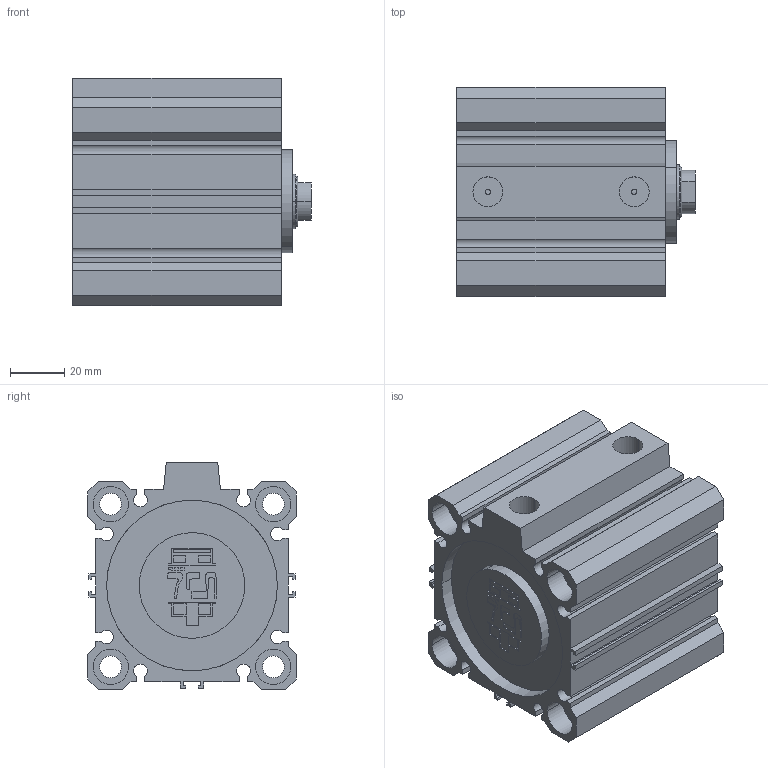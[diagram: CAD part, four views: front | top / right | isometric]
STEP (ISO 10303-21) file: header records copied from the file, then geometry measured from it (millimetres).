
FILE_DESCRIPTION(('CATIA V5 STEP Exchange'),'2;1');
FILE_NAME('D:\PDA\PDA-STP\PDA 63-20\PDA 63-20-35.stp','2016-02-03T05:39:42+00:00',('none'),('none'),'Version 5-6 Release 2012','CATIA V5 STEP AP203','none');
FILE_SCHEMA(('CONFIG_CONTROL_DESIGN'));
Length unit declared in the file: millimetre
Products named in the file (1): PDA 63-20-35-00
Assembly tree (2 placements, depth 2):
  PDA 63-20-35-00
    #58
    #7662
Bounding box: 88 x 77 x 84 mm (x, y, z)
Volume: 253212.6 mm3; surface area: 90640.1 mm2
Topology: 2 solids, 2 shells, 284 faces, 748 edges, 500 vertices
Faces by surface type: plane 200, cylinder 80, cone 2, torus 2
Entity records: 8182 total; most frequent: ORIENTED_EDGE 1496, CARTESIAN_POINT 1461, DIRECTION 1106, EDGE_CURVE 748, VECTOR 574, LINE 574, VERTEX_POINT 500, AXIS2_PLACEMENT_3D 351
